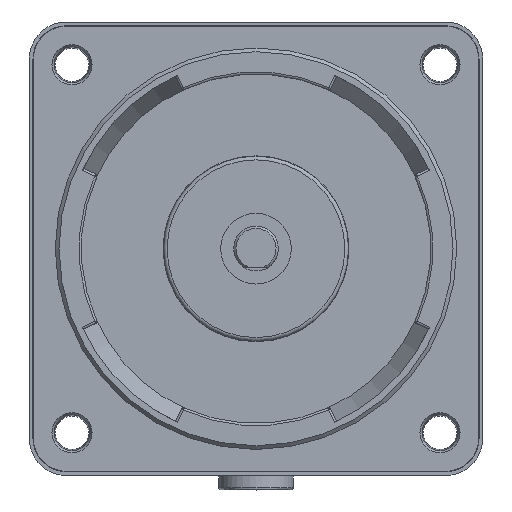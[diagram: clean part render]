
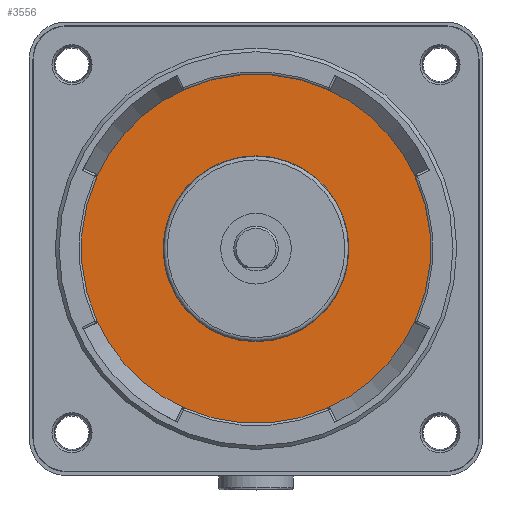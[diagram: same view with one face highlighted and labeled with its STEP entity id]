
A CAD part, top view. The second image highlights one B-rep face of the part: STEP entity #3556.
In plain terms, the highlighted planar face has unit normal (0, 0, 1).
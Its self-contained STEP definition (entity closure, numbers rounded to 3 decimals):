
#126 = VERTEX_POINT ( 'NONE', #3269 ) ;
#187 = DIRECTION ( 'NONE',  ( 0., 0., 1. ) ) ;
#279 = ORIENTED_EDGE ( 'NONE', *, *, #5470, .T. ) ;
#304 = DIRECTION ( 'NONE',  ( 1., 0., 0. ) ) ;
#321 = CARTESIAN_POINT ( 'NONE',  ( 21.422, 9.662, -2. ) ) ;
#337 = VERTEX_POINT ( 'NONE', #4937 ) ;
#386 = CARTESIAN_POINT ( 'NONE',  ( 0., 0., -2. ) ) ;
#767 = VERTEX_POINT ( 'NONE', #5528 ) ;
#774 = DIRECTION ( 'NONE',  ( 0., 0., -1. ) ) ;
#910 = CIRCLE ( 'NONE', #9333, 12.5 ) ;
#1466 = DIRECTION ( 'NONE',  ( 1., 0., 0. ) ) ;
#1563 = CARTESIAN_POINT ( 'NONE',  ( -21.422, -9.662, -2. ) ) ;
#1598 = EDGE_CURVE ( 'NONE', #126, #126, #910, .T. ) ;
#1666 = DIRECTION ( 'NONE',  ( 0., 0., -1. ) ) ;
#1667 = ORIENTED_EDGE ( 'NONE', *, *, #1598, .F. ) ;
#2035 = DIRECTION ( 'NONE',  ( 1., 0., 0. ) ) ;
#2059 = EDGE_CURVE ( 'NONE', #337, #2875, #5447, .T. ) ;
#2506 = EDGE_CURVE ( 'NONE', #2721, #2806, #5134, .T. ) ;
#2656 = AXIS2_PLACEMENT_3D ( 'NONE', #3195, #1666, #8515 ) ;
#2721 = VERTEX_POINT ( 'NONE', #2912 ) ;
#2746 = DIRECTION ( 'NONE',  ( 0., 0., 1. ) ) ;
#2806 = VERTEX_POINT ( 'NONE', #5395 ) ;
#2875 = VERTEX_POINT ( 'NONE', #8484 ) ;
#2912 = CARTESIAN_POINT ( 'NONE',  ( 9.662, -21.422, -2. ) ) ;
#2979 = AXIS2_PLACEMENT_3D ( 'NONE', #3226, #6322, #7900 ) ;
#2996 = VERTEX_POINT ( 'NONE', #4292 ) ;
#2997 = CARTESIAN_POINT ( 'NONE',  ( 0., 0., -2. ) ) ;
#3195 = CARTESIAN_POINT ( 'NONE',  ( 0., 0., -2. ) ) ;
#3202 = ORIENTED_EDGE ( 'NONE', *, *, #2506, .T. ) ;
#3226 = CARTESIAN_POINT ( 'NONE',  ( 0., 0., -2. ) ) ;
#3269 = CARTESIAN_POINT ( 'NONE',  ( 12.5, 0., -2. ) ) ;
#3556 = ADVANCED_FACE ( 'NONE', ( #3564, #6617 ), #6661, .T. ) ;
#3564 = FACE_BOUND ( 'NONE', #7022, .T. ) ;
#3663 = VERTEX_POINT ( 'NONE', #1563 ) ;
#3775 = EDGE_CURVE ( 'NONE', #3663, #2996, #7492, .T. ) ;
#3958 = DIRECTION ( 'NONE',  ( 0., 0., 1. ) ) ;
#4081 = AXIS2_PLACEMENT_3D ( 'NONE', #4409, #7547, #8503 ) ;
#4116 = DIRECTION ( 'NONE',  ( 0., 0., 1. ) ) ;
#4134 = AXIS2_PLACEMENT_3D ( 'NONE', #4909, #187, #5512 ) ;
#4277 = DIRECTION ( 'NONE',  ( 0., 0., 1. ) ) ;
#4292 = CARTESIAN_POINT ( 'NONE',  ( -9.662, -21.422, -2. ) ) ;
#4333 = ORIENTED_EDGE ( 'NONE', *, *, #5092, .T. ) ;
#4409 = CARTESIAN_POINT ( 'NONE',  ( 0., 0., -2. ) ) ;
#4524 = DIRECTION ( 'NONE',  ( 0., 0., 1. ) ) ;
#4586 = AXIS2_PLACEMENT_3D ( 'NONE', #4765, #4116, #4867 ) ;
#4635 = EDGE_CURVE ( 'NONE', #8325, #2806, #7673, .T. ) ;
#4765 = CARTESIAN_POINT ( 'NONE',  ( 0., 0., -2. ) ) ;
#4867 = DIRECTION ( 'NONE',  ( 1., 0., 0. ) ) ;
#4909 = CARTESIAN_POINT ( 'NONE',  ( 0., 0., -2. ) ) ;
#4937 = CARTESIAN_POINT ( 'NONE',  ( -9.662, 21.422, -2. ) ) ;
#5072 = DIRECTION ( 'NONE',  ( 1., 0., 0. ) ) ;
#5092 = EDGE_CURVE ( 'NONE', #2996, #2721, #7035, .T. ) ;
#5134 = CIRCLE ( 'NONE', #8704, 23.5 ) ;
#5288 = DIRECTION ( 'NONE',  ( -1., 0., 0. ) ) ;
#5395 = CARTESIAN_POINT ( 'NONE',  ( 21.422, -9.662, -2. ) ) ;
#5447 = CIRCLE ( 'NONE', #8209, 23.5 ) ;
#5470 = EDGE_CURVE ( 'NONE', #337, #767, #9938, .T. ) ;
#5512 = DIRECTION ( 'NONE',  ( 1., 0., 0. ) ) ;
#5528 = CARTESIAN_POINT ( 'NONE',  ( -21.422, 9.662, -2. ) ) ;
#5645 = EDGE_LOOP ( 'NONE', ( #7804, #4333, #3202, #8846, #9743, #7814, #279, #9695 ) ) ;
#5886 = CARTESIAN_POINT ( 'NONE',  ( 0., 0., -2. ) ) ;
#5904 = EDGE_CURVE ( 'NONE', #8325, #2875, #8178, .T. ) ;
#6322 = DIRECTION ( 'NONE',  ( 0., 0., 1. ) ) ;
#6403 = AXIS2_PLACEMENT_3D ( 'NONE', #9839, #4524, #1466 ) ;
#6617 = FACE_OUTER_BOUND ( 'NONE', #5645, .T. ) ;
#6661 = PLANE ( 'NONE',  #7652 ) ;
#7022 = EDGE_LOOP ( 'NONE', ( #1667 ) ) ;
#7035 = CIRCLE ( 'NONE', #4134, 23.5 ) ;
#7492 = CIRCLE ( 'NONE', #4586, 23.5 ) ;
#7547 = DIRECTION ( 'NONE',  ( 0., 0., -1. ) ) ;
#7652 = AXIS2_PLACEMENT_3D ( 'NONE', #5886, #4277, #2035 ) ;
#7673 = CIRCLE ( 'NONE', #2656, 23.5 ) ;
#7799 = CARTESIAN_POINT ( 'NONE',  ( 0., 0., -2. ) ) ;
#7804 = ORIENTED_EDGE ( 'NONE', *, *, #3775, .T. ) ;
#7814 = ORIENTED_EDGE ( 'NONE', *, *, #2059, .F. ) ;
#7900 = DIRECTION ( 'NONE',  ( 1., 0., 0. ) ) ;
#8178 = CIRCLE ( 'NONE', #6403, 23.5 ) ;
#8209 = AXIS2_PLACEMENT_3D ( 'NONE', #2997, #774, #5288 ) ;
#8325 = VERTEX_POINT ( 'NONE', #321 ) ;
#8433 = CIRCLE ( 'NONE', #4081, 23.5 ) ;
#8484 = CARTESIAN_POINT ( 'NONE',  ( 9.662, 21.422, -2. ) ) ;
#8503 = DIRECTION ( 'NONE',  ( 0., -1., 0. ) ) ;
#8515 = DIRECTION ( 'NONE',  ( 0., 1., 0. ) ) ;
#8704 = AXIS2_PLACEMENT_3D ( 'NONE', #7799, #3958, #304 ) ;
#8757 = EDGE_CURVE ( 'NONE', #3663, #767, #8433, .T. ) ;
#8846 = ORIENTED_EDGE ( 'NONE', *, *, #4635, .F. ) ;
#9333 = AXIS2_PLACEMENT_3D ( 'NONE', #386, #2746, #5072 ) ;
#9695 = ORIENTED_EDGE ( 'NONE', *, *, #8757, .F. ) ;
#9743 = ORIENTED_EDGE ( 'NONE', *, *, #5904, .T. ) ;
#9839 = CARTESIAN_POINT ( 'NONE',  ( 0., 0., -2. ) ) ;
#9938 = CIRCLE ( 'NONE', #2979, 23.5 ) ;
